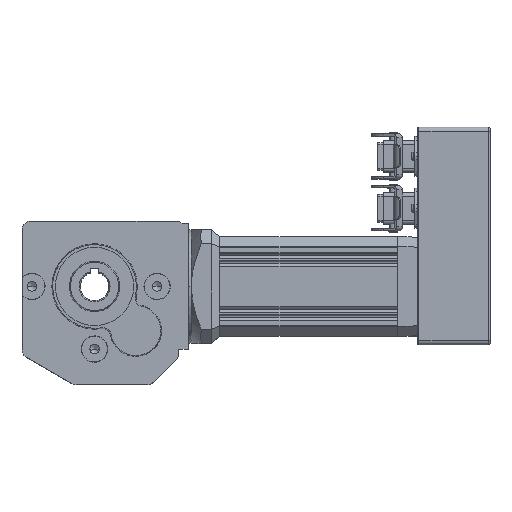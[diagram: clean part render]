
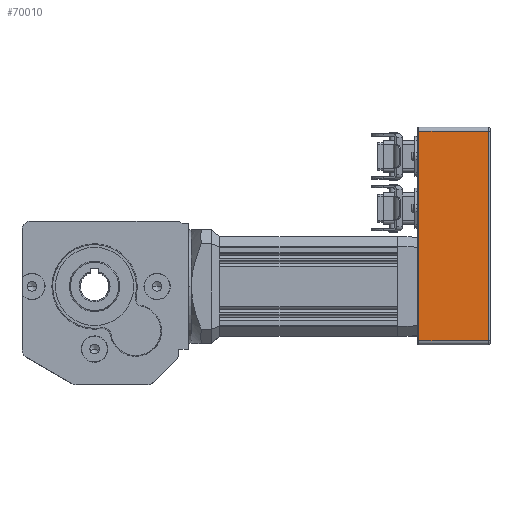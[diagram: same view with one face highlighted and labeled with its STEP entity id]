
A CAD part, top view. The second image highlights one B-rep face of the part: STEP entity #70010.
In plain terms, the highlighted planar face has unit normal (0, 0, 1) as drawn and (1, 0, 0) by its records, which use the part's own axes.
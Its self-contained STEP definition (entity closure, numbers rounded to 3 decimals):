
#67460=CARTESIAN_POINT('',(-91.958,-332.478,
-65.5));
#67470=VERTEX_POINT('',#67460);
#67500=CARTESIAN_POINT('',(-91.958,90.916,
-65.5));
#67510=DIRECTION('',(0.,-1.,0.));
#67520=VECTOR('',#67510,1.);
#67530=LINE('',#67500,#67520);
#67540=CARTESIAN_POINT('',(-91.958,-185.478,
-65.5));
#67550=VERTEX_POINT('',#67540);
#67560=EDGE_CURVE('',#67550,#67470,#67530,.T.);
#69710=CARTESIAN_POINT('',(-91.958,-215.205,
-13.5));
#69720=DIRECTION('',(1.,0.,0.));
#69730=DIRECTION('',(0.,-1.,0.));
#69740=AXIS2_PLACEMENT_3D('',#69710,#69720,#69730);
#69750=PLANE('',#69740);
#69760=CARTESIAN_POINT('',(-91.958,-185.478,
-159.958));
#69770=DIRECTION('',(0.,0.,1.));
#69780=VECTOR('',#69770,1.);
#69790=LINE('',#69760,#69780);
#69800=CARTESIAN_POINT('',(-91.958,-185.478,
-16.5));
#69810=VERTEX_POINT('',#69800);
#69820=EDGE_CURVE('',#67550,#69810,#69790,.T.);
#69830=ORIENTED_EDGE('',*,*,#69820,.T.);
#69840=ORIENTED_EDGE('',*,*,#67560,.F.);
#69850=CARTESIAN_POINT('',(-91.958,-332.478,
-159.958));
#69860=DIRECTION('',(0.,0.,-1.));
#69870=VECTOR('',#69860,1.);
#69880=LINE('',#69850,#69870);
#69890=CARTESIAN_POINT('',(-91.958,-332.478,
-16.5));
#69900=VERTEX_POINT('',#69890);
#69910=EDGE_CURVE('',#69900,#67470,#69880,.T.);
#69920=ORIENTED_EDGE('',*,*,#69910,.T.);
#69930=CARTESIAN_POINT('',(-91.958,90.916,
-16.5));
#69940=DIRECTION('',(0.,-1.,0.));
#69950=VECTOR('',#69940,1.);
#69960=LINE('',#69930,#69950);
#69970=EDGE_CURVE('',#69810,#69900,#69960,.T.);
#69980=ORIENTED_EDGE('',*,*,#69970,.T.);
#69990=EDGE_LOOP('',(#69980,#69920,#69840,#69830));
#70000=FACE_OUTER_BOUND('',#69990,.T.);
#70010=ADVANCED_FACE('',(#70000),#69750,.T.);
